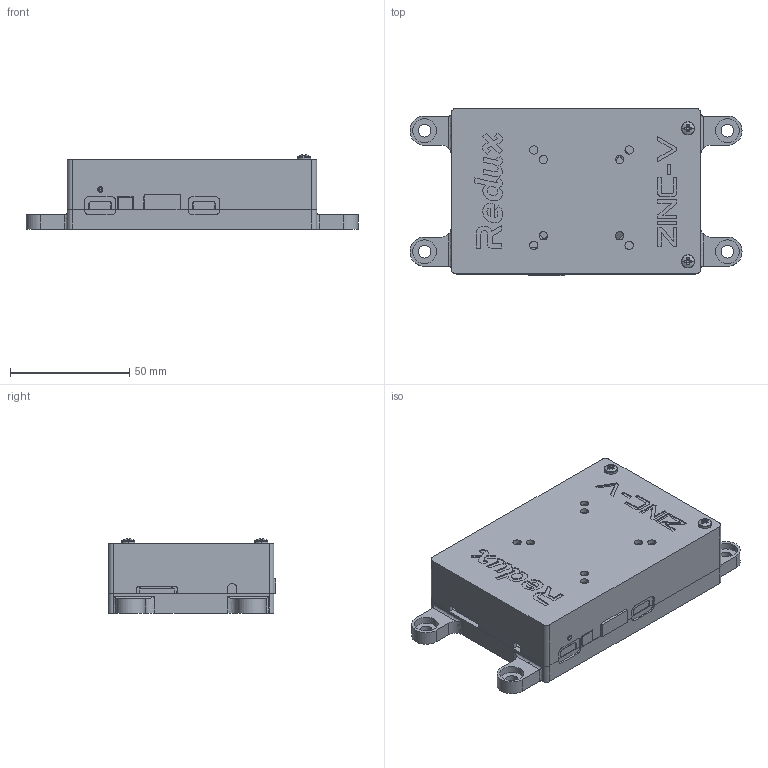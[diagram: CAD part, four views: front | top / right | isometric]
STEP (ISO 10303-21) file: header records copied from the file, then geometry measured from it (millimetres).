
FILE_DESCRIPTION(/* description */ ('STEP AP242','CAx-IF Rec.Pracs.---Representation and Presentation of Product Manufacturing Information (PMI)---4.0---2014-10-13','CAx-IF Rec.Pracs.---3D Tessellated Geometry---0.4---2014-09-14','2;1'),/* implementation_level */ '2;1');
FILE_NAME(/* name */ 'ZINCVOPICASE',/* time_stamp */ '2024-09-15T02:52:53Z');
FILE_SCHEMA (('AP242_MANAGED_MODEL_BASED_3D_ENGINEERING_MIM_LF { 1 0 10303 442 1 1 4 }'));
Length unit declared in the file: metre
Products named in the file (9): Locking OPi5 Case; CUI 5010 Fan; Hex machine screw nut #4-40; Hex nut style 1 grade A & B M2x0.4; Pan head machine screw #4-40 x 1.125; LockingOpi5-Base; Pan head machine screw #4-40 x 0.3125; LockingOpi5-Lid; Orange Pi 5
Assembly tree (13 placements, depth 2):
  Locking OPi5 Case
    CUI 5010 Fan
    Hex machine screw nut #4-40  x4
    Hex nut style 1 grade A & B M2x0.4
    Pan head machine screw #4-40 x 1.125  x2
    LockingOpi5-Base
    Pan head machine screw #4-40 x 0.3125  x2
    LockingOpi5-Lid
    Orange Pi 5
Bounding box: 139.3 x 70.2 x 31.17 mm (x, y, z)
Volume: 85956.9 mm3; surface area: 79842.8 mm2
Topology: 13 solids, 15 shells, 1160 faces, 3131 edges, 1976 vertices
Faces by surface type: bspline 1160
Entity records: 32768 total; most frequent: CARTESIAN_POINT 11291, ORIENTED_EDGE 5248, DIRECTION 2835, EDGE_CURVE 2624, VERTEX_POINT 1716, LINE 1713, VECTOR 1713, EDGE_LOOP 1102
